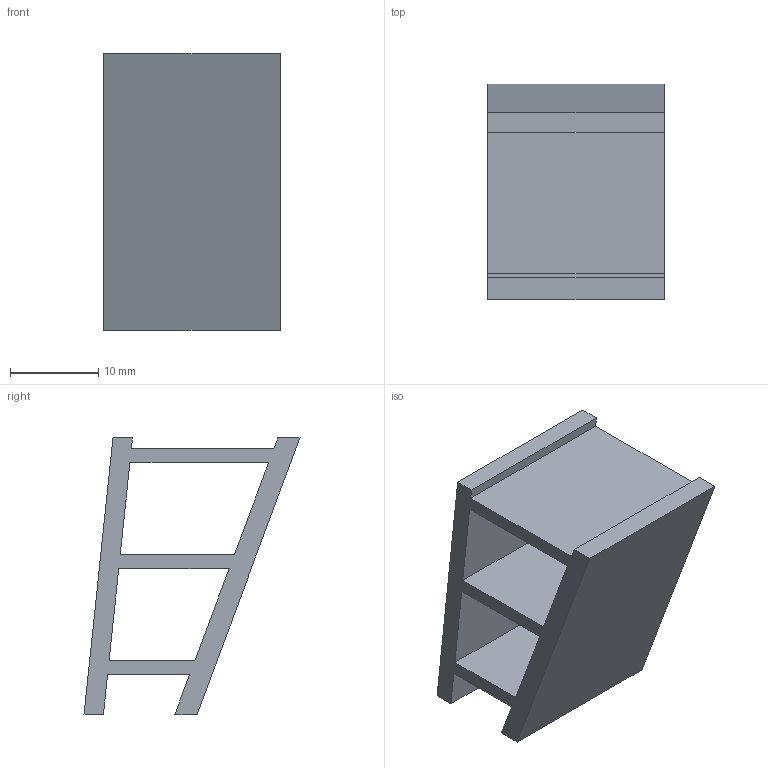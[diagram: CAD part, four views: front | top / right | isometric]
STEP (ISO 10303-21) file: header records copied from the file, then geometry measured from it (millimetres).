
FILE_DESCRIPTION(('Open CASCADE Model'),'2;1');
FILE_NAME('Open CASCADE Shape Model','2026-10-16T00:30:56',('Author'),( 'Open CASCADE'),'Open CASCADE STEP processor 7.9','Open CASCADE 7.9' ,'Unknown');
FILE_SCHEMA(('AUTOMOTIVE_DESIGN { 1 0 10303 214 1 1 1 1 }'));
Length unit declared in the file: millimetre
Products named in the file (1): Open CASCADE STEP translator 7.9 21
Bounding box: 20 x 24.44 x 31.25 mm (x, y, z)
Volume: 4157.5 mm3; surface area: 4520.7 mm2
Topology: 1 solids, 1 shells, 22 faces, 60 edges, 40 vertices
Faces by surface type: plane 22
Entity records: 1482 total; most frequent: CARTESIAN_POINT 243, DIRECTION 226, LINE 180, VECTOR 180, ORIENTED_EDGE 120, PCURVE 120, DEFINITIONAL_REPRESENTATION 120, EDGE_CURVE 60
